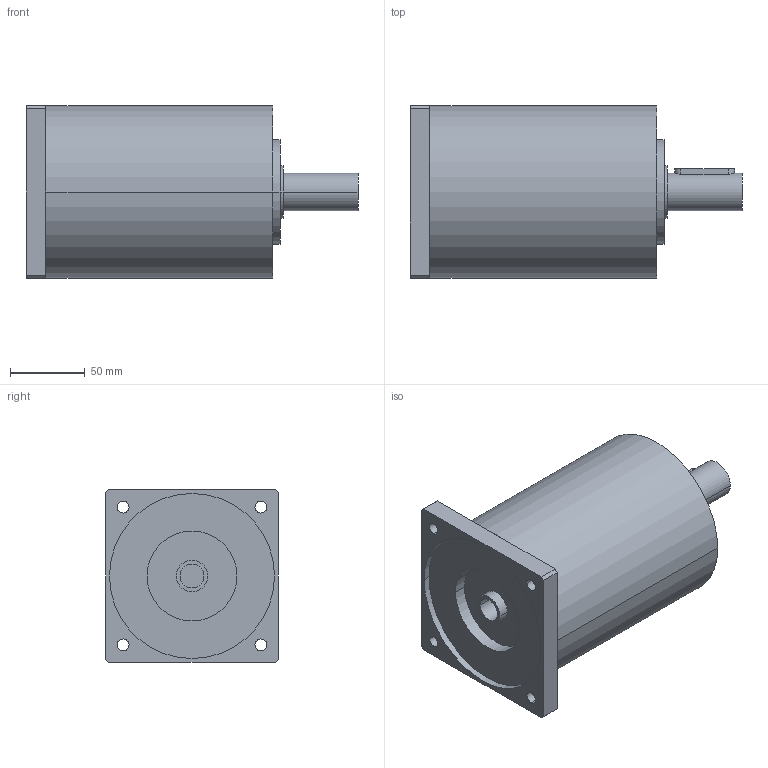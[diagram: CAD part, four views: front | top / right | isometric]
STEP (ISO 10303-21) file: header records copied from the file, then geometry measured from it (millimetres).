
FILE_DESCRIPTION(('CoCreate Modeling STEP Export'),'2;1');
FILE_NAME('GPR125_ig-9-12-16-20-28-35_25_B14_16_P13.stp','2014-08-26T14:10:25',(''),(''),'CoCreate Modeling STEP processor for AP214 (Solid Model)','CoCreate Modeling 16.00C 25-Feb-2009 (C) Parametric Technology GmbH','');
FILE_SCHEMA(('AUTOMOTIVE_DESIGN { 1 0 10303 214 1 1 1 1 }'));
Length unit declared in the file: millimetre
Products named in the file (2): GPR125_ig-9-12-16-20-28-35_25_B14_16_P13
Assembly tree (1 placements, depth 2):
  GPR125_ig-9-12-16-20-28-35_25_B14_16_P13
    GPR125_ig-9-12-16-20-28-35_25_B14_16_P13
Bounding box: 221.4 x 115 x 115 mm (x, y, z)
Volume: 1711484.8 mm3; surface area: 101797.3 mm2
Topology: 1 solids, 1 shells, 65 faces, 180 edges, 128 vertices
Faces by surface type: cylinder 40, plane 21, cone 4
Entity records: 1853 total; most frequent: ORIENTED_EDGE 356, CARTESIAN_POINT 351, DIRECTION 248, EDGE_CURVE 178, VERTEX_POINT 128, AXIS2_PLACEMENT_3D 93, EDGE_LOOP 86, FACE_OUTER_BOUND 65
